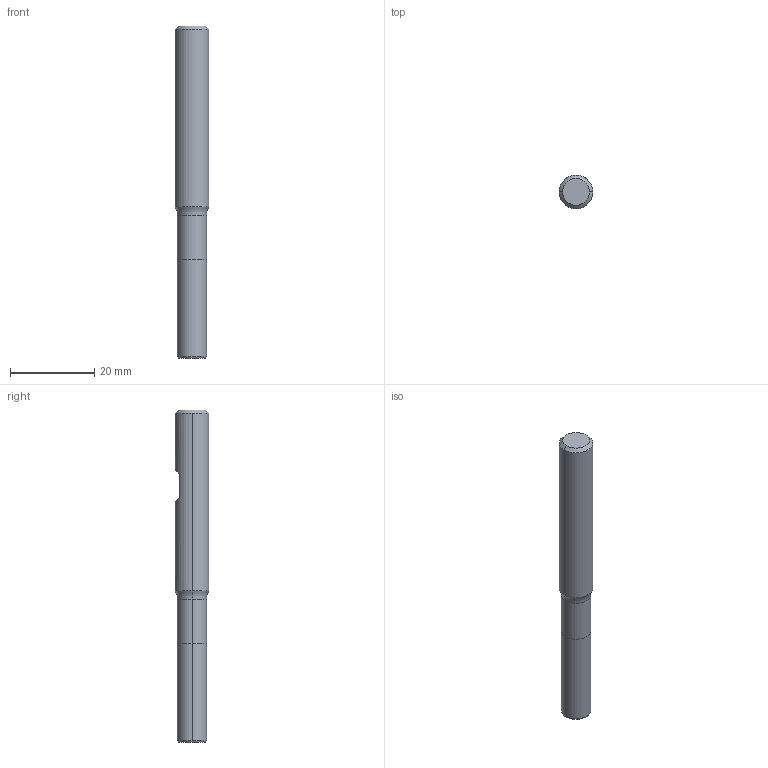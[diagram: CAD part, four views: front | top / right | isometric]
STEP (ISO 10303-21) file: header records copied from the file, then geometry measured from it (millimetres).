
FILE_DESCRIPTION (( 'STEP AP214' ), '1' );
FILE_NAME ('817.070.10_3D-model.step', '2022-02-23T23:32:11', ( '' ), ( '' ), 'SwSTEP 2.0', 'SolidWorks 2020', '' );
FILE_SCHEMA (( 'AUTOMOTIVE_DESIGN' ));
Length unit declared in the file: millimetre
Products named in the file (3): CUT-3D^Baugr83; 817.070.10_3D-model; NOCUT-3D^Baugr83
Assembly tree (2 placements, depth 2):
  817.070.10_3D-model
    CUT-3D^Baugr83
    NOCUT-3D^Baugr83
Bounding box: 8 x 8 x 79 mm (x, y, z)
Volume: 3519.9 mm3; surface area: 2026.2 mm2
Topology: 2 solids, 2 shells, 19 faces, 34 edges, 20 vertices
Faces by surface type: plane 7, cylinder 6, cone 4, torus 2
Entity records: 584 total; most frequent: DIRECTION 104, CARTESIAN_POINT 87, ORIENTED_EDGE 68, AXIS2_PLACEMENT_3D 45, EDGE_CURVE 34, EDGE_LOOP 20, VERTEX_POINT 20, FACE_OUTER_BOUND 19
